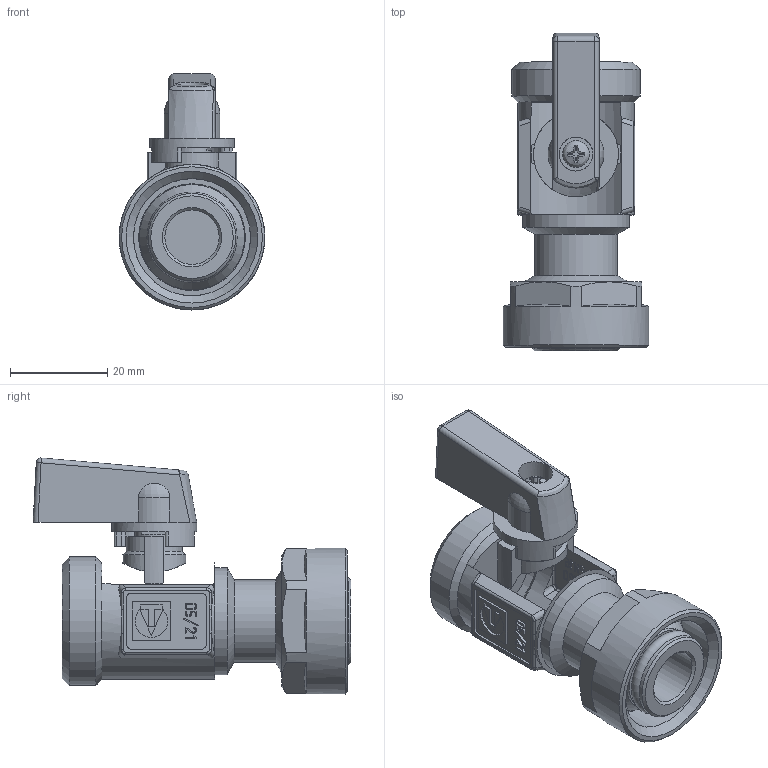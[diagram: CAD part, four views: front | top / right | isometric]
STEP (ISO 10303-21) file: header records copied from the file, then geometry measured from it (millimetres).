
FILE_DESCRIPTION(('STEP AP203'), '1');
FILE_NAME('VTc.720.NE.0005', '', ('UNSPECIFIED'), ('UNSPECIFIED'), 'C3D Converter', 'C3D Toolkit', '');
FILE_SCHEMA(('CONFIG_CONTROL_DESIGN'));
Length unit declared in the file: millimetre
Products named in the file (1): ВР.491812.009.000 СБ
Bounding box: 30 x 65.45 x 48.61 mm (x, y, z)
Surface area: 12890.2 mm2 (no closed solid volume)
Topology: 0 solids, 1 shells, 627 faces, 1675 edges, 1092 vertices
Faces by surface type: plane 255, extrusion 239, cylinder 79, cone 28, bspline 18, torus 6, sphere 2
Full cylindrical faces by diameter (mm): 4 x1, 4.5 x1, 7 x1, 7.95 x1, 11.2 x1, 17 x1, 17.5 x1, 18 x2, 18.2 x1, 21.5 x1, 21.7 x1, 22 x3, 24 x1, 24.1 x1, 24.118 x1, 26.441 x1, 30 x1
Entity records: 22375 total; most frequent: CARTESIAN_POINT 8004, ORIENTED_EDGE 3264, DIRECTION 2202, EDGE_CURVE 1633, VECTOR 1104, VERTEX_POINT 1090, LINE 865, B_SPLINE_CURVE_WITH_KNOTS 791
